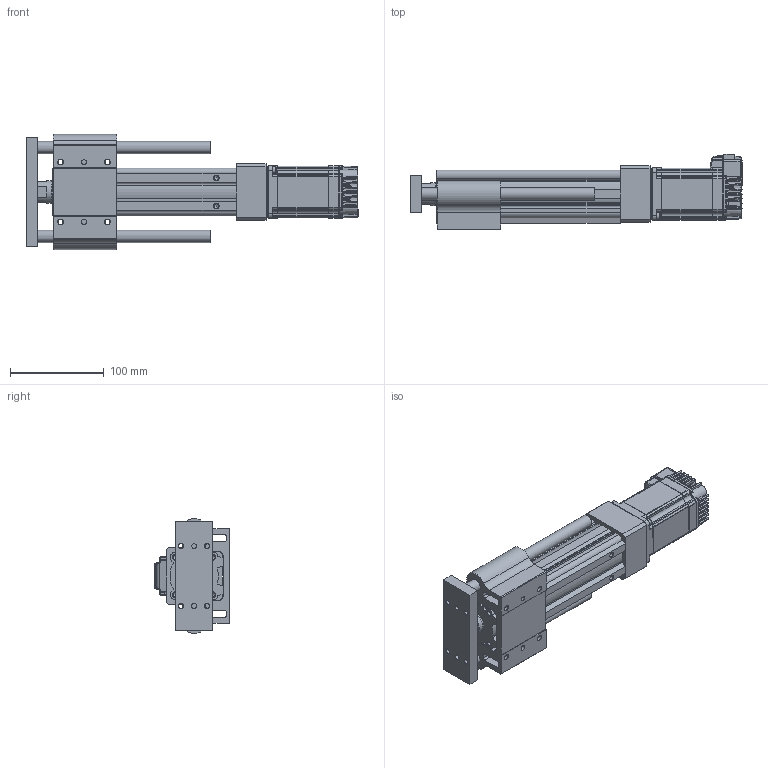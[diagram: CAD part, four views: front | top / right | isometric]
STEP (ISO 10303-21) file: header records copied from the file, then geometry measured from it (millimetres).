
FILE_DESCRIPTION (( 'STEP AP214' ), '1' );
FILE_NAME ('LEYG3(+)-32LDNM1□-100-23L.STEP', '2023-04-14T06:48:41', ( '' ), ( '' ), 'SwSTEP 2.0', 'SolidWorks 2019', '' );
FILE_SCHEMA (( 'AUTOMOTIVE_DESIGN' ));
Length unit declared in the file: millimetre
Products named in the file (6): LEYG3(+)-32NM1?_BODY_100; CM3(+)-23L50A_2-M4_01; LEYG3(+)-32LNM1□_ATTACH_100; LEY3(+)-32DNM1_MOTOR Flange; LEYG3(+)-32LDNM1□-100-23L; LEYG3(+)-32LNM1?_ROD_100
Assembly tree (5 placements, depth 2):
  LEYG3(+)-32LDNM1□-100-23L
    LEYG3(+)-32NM1?_BODY_100
    LEYG3(+)-32LNM1?_ROD_100
    LEYG3(+)-32LNM1□_ATTACH_100
    LEY3(+)-32DNM1_MOTOR Flange
    CM3(+)-23L50A_2-M4_01
Bounding box: 354.8 x 81.05 x 122.98 mm (x, y, z)
Volume: 1128042.9 mm3; surface area: 218176.9 mm2
Topology: 5 solids, 14 shells, 1518 faces, 3918 edges, 2430 vertices
Faces by surface type: plane 707, cylinder 466, bspline 133, cone 107, torus 58, sphere 47
Full cylindrical faces by diameter (mm): 2.5 x4, 3 x2, 3.2 x4, 4.2 x1, 4.5 x7, 4.9 x10, 5 x2, 6.2 x4, 6.35 x1, 7 x2, 8 x2, 13 x2, 24.5 x1, 25 x2, 32 x2, 38.1 x1
Entity records: 51618 total; most frequent: CARTESIAN_POINT 13066, ORIENTED_EDGE 7520, DIRECTION 7003, EDGE_CURVE 3760, VERTEX_POINT 2406, AXIS2_PLACEMENT_3D 2389, VECTOR 2225, LINE 2225
